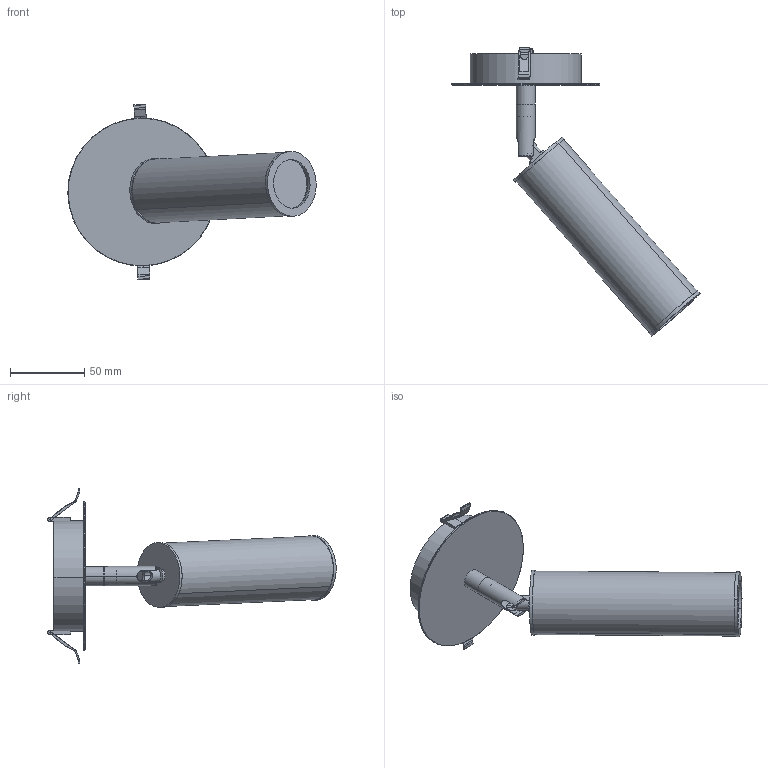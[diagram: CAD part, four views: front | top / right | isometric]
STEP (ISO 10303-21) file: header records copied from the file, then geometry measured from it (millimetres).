
FILE_DESCRIPTION (( 'STEP AP214' ), '1' );
FILE_NAME ('TURA_empotrable.STEP', '2026-03-10T11:52:56', ( '' ), ( '' ), 'SwSTEP 2.0', 'SolidWorks 2023', '' );
FILE_SCHEMA (( 'AUTOMOTIVE_DESIGN' ));
Length unit declared in the file: millimetre
Products named in the file (6): ROTULA tija; Ensamblaje_florón_rótula; TURA_1313_CABEZAL; TURA_empotrable; EP1279; ROTULA
Assembly tree (5 placements, depth 3):
  TURA_empotrable
    Ensamblaje_florón_rótula
      EP1279
      ROTULA tija
      ROTULA
    TURA_1313_CABEZAL
Bounding box: 167.69 x 194.68 x 118.48 mm (x, y, z)
Volume: 77000.7 mm3; surface area: 117152 mm2
Topology: 22 solids, 22 shells, 638 faces, 1672 edges, 1096 vertices
Faces by surface type: plane 274, cylinder 192, cone 67, bspline 61, torus 28, sphere 16
Entity records: 30016 total; most frequent: CARTESIAN_POINT 13957, ORIENTED_EDGE 3342, DIRECTION 3199, EDGE_CURVE 1671, AXIS2_PLACEMENT_3D 1193, VERTEX_POINT 1096, VECTOR 813, LINE 813
